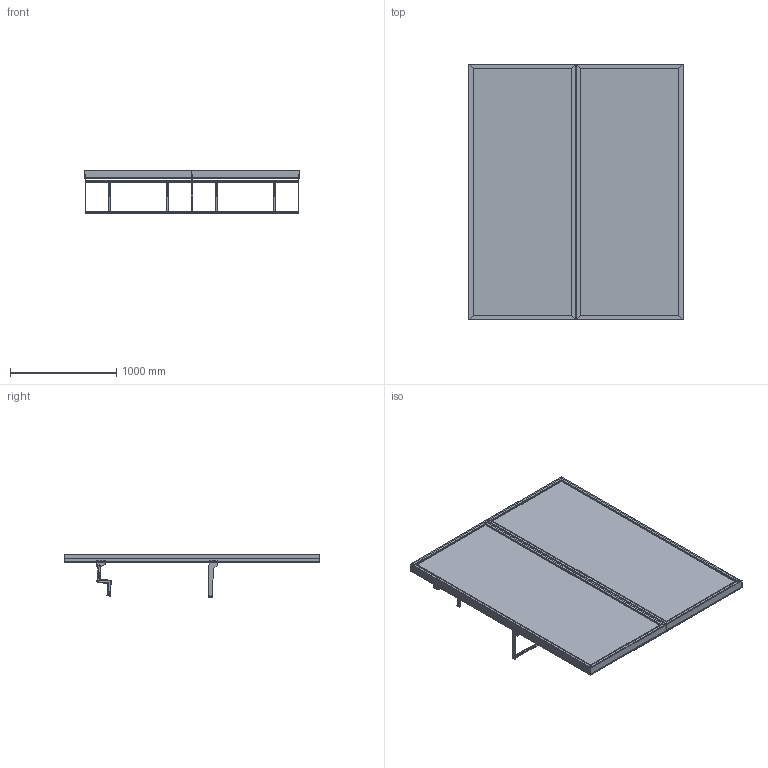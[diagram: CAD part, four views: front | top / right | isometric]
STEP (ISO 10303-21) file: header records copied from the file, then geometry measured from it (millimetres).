
FILE_DESCRIPTION (( 'STEP AP214' ), '1' );
FILE_NAME ('Slotted UpBright? Golf Pro Shop Apparel Wall (Config 6).STEP', '2026-03-30T17:13:02', ( '' ), ( '' ), 'SwSTEP 2.0', 'SolidWorks 2025', '' );
FILE_SCHEMA (( 'AUTOMOTIVE_DESIGN' ));
Length unit declared in the file: millimetre
Products named in the file (15): 0001-31-GA10 - 1005W Slotted upbright; 0001-31-103; 0001-31-130; 0001-31-100; 0001-31-108; 0001-31-SA25 - 1005W Side Facing D Rail; 0001-31-110; 0001-31-121; 0001-31-107; 0001-31-109; Slotted UpBright® Golf Pro Shop Apparel Wall (Config 6); 0001-31-131; 0001-31-SA24 - Step Arm; 0001-31-104; 0001-31-SA26 - 1005W Rear support Bar
Assembly tree (22 placements, depth 3):
  Slotted UpBright® Golf Pro Shop Apparel Wall (Config 6)
    0001-31-GA10 - 1005W Slotted upbright  x2
    0001-31-SA26 - 1005W Rear support Bar  x2
      0001-31-103
      0001-31-131
    0001-31-SA25 - 1005W Side Facing D Rail  x2
      0001-31-100
      0001-31-130
    0001-31-SA24 - Step Arm  x4
      0001-31-104
      0001-31-107
      0001-31-108
      0001-31-109
      0001-31-110
      0001-31-121
Bounding box: 2011.48 x 2400 x 404.75 mm (x, y, z)
Volume: 16771226.3 mm3; surface area: 24833479.6 mm2
Topology: 48 solids, 48 shells, 1832 faces, 6112 edges, 4072 vertices
Faces by surface type: plane 1504, cylinder 320, torus 8
Entity records: 29775 total; most frequent: CARTESIAN_POINT 5816, ORIENTED_EDGE 5366, DIRECTION 4239, EDGE_CURVE 2683, LINE 2457, VECTOR 2457, VERTEX_POINT 1788, EDGE_LOOP 953
